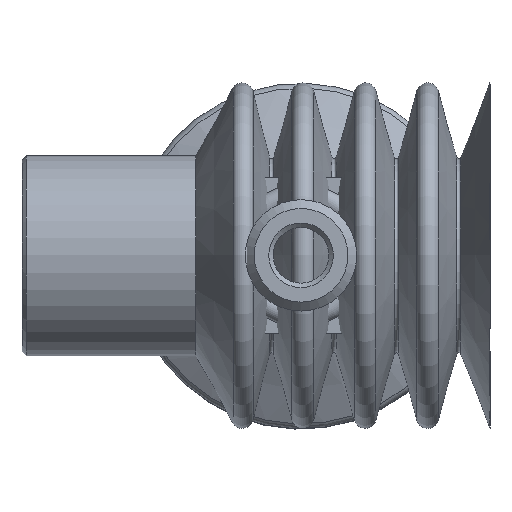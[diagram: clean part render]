
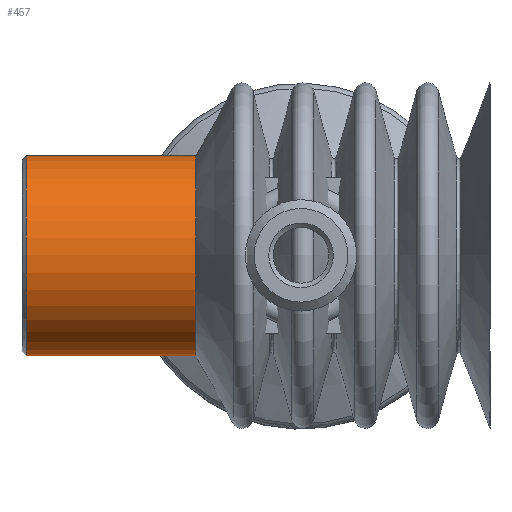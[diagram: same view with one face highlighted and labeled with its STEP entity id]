
A CAD part, top view. The second image highlights one B-rep face of the part: STEP entity #457.
In plain terms, the highlighted cylindrical face has radius 4.5 mm (diameter 9 mm), a full revolution.
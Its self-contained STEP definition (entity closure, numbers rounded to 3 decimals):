
#457 = ADVANCED_FACE( '', ( #803, #804 ), #805, .T. );
#803 = FACE_OUTER_BOUND( '', #1039, .T. );
#804 = FACE_OUTER_BOUND( '', #1040, .T. );
#805 = CYLINDRICAL_SURFACE( '', #1041, 4.5 );
#1039 = EDGE_LOOP( '', ( #1331 ) );
#1040 = EDGE_LOOP( '', ( #1332 ) );
#1041 = AXIS2_PLACEMENT_3D( '', #1333, #1334, #1335 );
#1331 = ORIENTED_EDGE( '', *, *, #1849, .T. );
#1332 = ORIENTED_EDGE( '', *, *, #1850, .T. );
#1333 = CARTESIAN_POINT( '', ( 10.5, 0., 0. ) );
#1334 = DIRECTION( '', ( 1., 0., 0. ) );
#1335 = DIRECTION( '', ( 0., 0., 1. ) );
#1849 = EDGE_CURVE( '', #2014, #2014, #2015, .T. );
#1850 = EDGE_CURVE( '', #2016, #2016, #2017, .T. );
#2014 = VERTEX_POINT( '', #2100 );
#2015 = CIRCLE( '', #2101, 4.5 );
#2016 = VERTEX_POINT( '', #2102 );
#2017 = CIRCLE( '', #2103, 4.5 );
#2100 = CARTESIAN_POINT( '', ( -10.3, 0., -4.5 ) );
#2101 = AXIS2_PLACEMENT_3D( '', #2188, #2189, #2190 );
#2102 = CARTESIAN_POINT( '', ( -2.7, 0., 4.5 ) );
#2103 = AXIS2_PLACEMENT_3D( '', #2191, #2192, #2193 );
#2188 = CARTESIAN_POINT( '', ( -10.3, 0., 0. ) );
#2189 = DIRECTION( '', ( 1., 0., 0. ) );
#2190 = DIRECTION( '', ( 0., 0., -1. ) );
#2191 = CARTESIAN_POINT( '', ( -2.7, 0., 0. ) );
#2192 = DIRECTION( '', ( -1., 0., 0. ) );
#2193 = DIRECTION( '', ( 0., 0., 1. ) );
